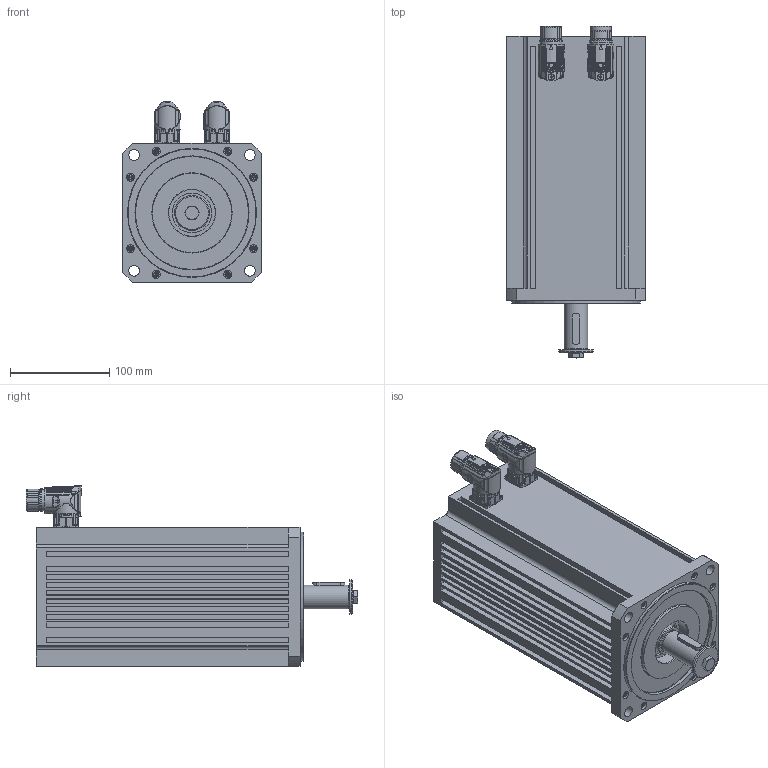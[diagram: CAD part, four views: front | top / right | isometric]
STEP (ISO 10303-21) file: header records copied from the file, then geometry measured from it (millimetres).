
FILE_DESCRIPTION(/* description */ (''),/* implementation_level */ '2;1');
FILE_NAME(/* name */ '\\mavilormotors.local\DFS\SERVOT\OT\ESTUDIS MOTORS\ALFRED\FP2514\FP2514_Solid.stp',/* time_stamp */ '2019-01-21T13:43:24+01:00',/* author */ ('adomenech'),/* organization */ (''),/* preprocessor_version */ 'ST-DEVELOPER v16.1',/* originating_system */ 'Autodesk Inventor 2016',/* authorisation */ '');
FILE_SCHEMA (('AUTOMOTIVE_DESIGN { 1 0 10303 214 3 1 1 }'));
Products named in the file (1): FP2514_Solid
Bounding box: 140 x 334.46 x 182.15 mm (x, y, z)
Volume: 4449461.8 mm3; surface area: 404469.4 mm2
Topology: 1 solids, 32 shells, 1930 faces, 4751 edges, 2978 vertices
Faces by surface type: plane 805, cylinder 534, bspline 300, cone 121, torus 104, sphere 66
Full cylindrical faces by diameter (mm): 2 x6, 2.013 x8, 2.7 x8, 3 x16, 3.2 x1, 3.242 x15, 4 x4, 4.5 x15, 5 x5, 5.5 x17, 5.75 x1, 6 x2, 6.25 x2, 6.647 x1, 7.323 x1, 8 x13, 8.4 x1, 9 x1, 11 x4, 11.4 x1, 15.3 x1, 17 x2, 17.4 x2, 17.5 x1, 18 x1, 19.2 x1, 19.7 x2, 20 x2, 21.15 x4, 21.6 x4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
Entity records: 69249 total; most frequent: CARTESIAN_POINT 25350, ORIENTED_EDGE 8674, DIRECTION 8138, EDGE_CURVE 4335, AXIS2_PLACEMENT_3D 3189, VERTEX_POINT 2891, EDGE_LOOP 2398, FACE_OUTER_BOUND 1926
